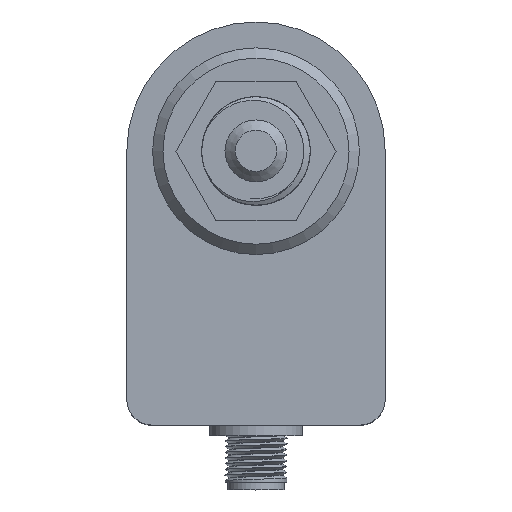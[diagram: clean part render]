
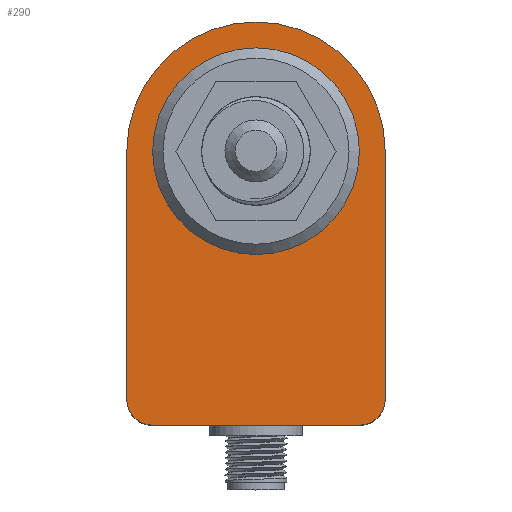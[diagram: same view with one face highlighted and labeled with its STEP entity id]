
A CAD part, top view. The second image highlights one B-rep face of the part: STEP entity #290.
In plain terms, the highlighted planar face has unit normal (0, 0, 1).
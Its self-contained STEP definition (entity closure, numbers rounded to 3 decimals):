
#290=ADVANCED_FACE('',(#880,#881),#446,.T.);
#446=PLANE('',#2704);
#552=LINE('',#3879,#674);
#556=LINE('',#3893,#678);
#559=LINE('',#3902,#681);
#674=VECTOR('',#2911,1.);
#678=VECTOR('',#2925,1.);
#681=VECTOR('',#2936,1.);
#816=CIRCLE('',#2691,25.);
#818=CIRCLE('',#2695,5.);
#821=CIRCLE('',#2700,5.);
#822=CIRCLE('',#2703,20.);
#880=FACE_BOUND('',#957,.T.);
#881=FACE_BOUND('',#958,.T.);
#957=EDGE_LOOP('',(#1256));
#958=EDGE_LOOP('',(#1257,#1258,#1259,#1260,#1261,#1262));
#1256=ORIENTED_EDGE('',*,*,#2227,.F.);
#1257=ORIENTED_EDGE('',*,*,#2211,.T.);
#1258=ORIENTED_EDGE('',*,*,#2214,.T.);
#1259=ORIENTED_EDGE('',*,*,#2217,.T.);
#1260=ORIENTED_EDGE('',*,*,#2221,.T.);
#1261=ORIENTED_EDGE('',*,*,#2224,.T.);
#1262=ORIENTED_EDGE('',*,*,#2226,.T.);
#1957=VERTEX_POINT('',#3867);
#1960=VERTEX_POINT('',#3872);
#1962=VERTEX_POINT('',#3878);
#1964=VERTEX_POINT('',#3884);
#1967=VERTEX_POINT('',#3892);
#1969=VERTEX_POINT('',#3898);
#1970=VERTEX_POINT('',#3905);
#2211=EDGE_CURVE('',#1957,#1960,#816,.T.);
#2214=EDGE_CURVE('',#1960,#1962,#552,.T.);
#2217=EDGE_CURVE('',#1962,#1964,#818,.T.);
#2221=EDGE_CURVE('',#1964,#1967,#556,.T.);
#2224=EDGE_CURVE('',#1967,#1969,#821,.T.);
#2226=EDGE_CURVE('',#1969,#1957,#559,.T.);
#2227=EDGE_CURVE('',#1970,#1970,#822,.T.);
#2691=AXIS2_PLACEMENT_3D('',#3873,#2905,#2906);
#2695=AXIS2_PLACEMENT_3D('',#3885,#2917,#2918);
#2700=AXIS2_PLACEMENT_3D('',#3899,#2931,#2932);
#2703=AXIS2_PLACEMENT_3D('',#3904,#2939,#2940);
#2704=AXIS2_PLACEMENT_3D('',#3906,#2941,#2942);
#2905=DIRECTION('',(0.,0.,1.));
#2906=DIRECTION('',(1.,0.,0.));
#2911=DIRECTION('',(0.,-1.,0.));
#2917=DIRECTION('',(0.,0.,1.));
#2918=DIRECTION('',(1.,0.,0.));
#2925=DIRECTION('',(1.,0.,0.));
#2931=DIRECTION('',(0.,0.,1.));
#2932=DIRECTION('',(1.,0.,0.));
#2936=DIRECTION('',(0.,1.,0.));
#2939=DIRECTION('',(0.,0.,1.));
#2940=DIRECTION('',(0.,1.,0.));
#2941=DIRECTION('',(0.,0.,1.));
#2942=DIRECTION('',(1.,0.,0.));
#3867=CARTESIAN_POINT('',(25.,53.,44.));
#3872=CARTESIAN_POINT('',(-25.,53.,44.));
#3873=CARTESIAN_POINT('',(0.,53.,44.));
#3878=CARTESIAN_POINT('',(-25.,5.,44.));
#3879=CARTESIAN_POINT('',(-25.,53.,44.));
#3884=CARTESIAN_POINT('',(-20.,0.,44.));
#3885=CARTESIAN_POINT('',(-20.,5.,44.));
#3892=CARTESIAN_POINT('',(20.,0.,44.));
#3893=CARTESIAN_POINT('',(-20.,0.,44.));
#3898=CARTESIAN_POINT('',(25.,5.,44.));
#3899=CARTESIAN_POINT('',(20.,5.,44.));
#3902=CARTESIAN_POINT('',(25.,5.,44.));
#3904=CARTESIAN_POINT('',(0.,53.,44.));
#3905=CARTESIAN_POINT('',(0.,73.,44.));
#3906=CARTESIAN_POINT('',(0.,53.,44.));
